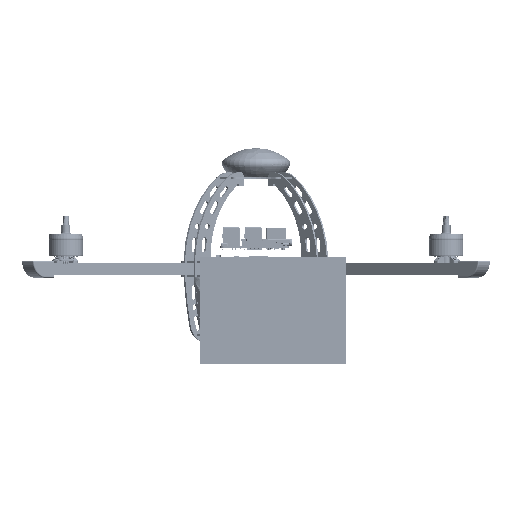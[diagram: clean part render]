
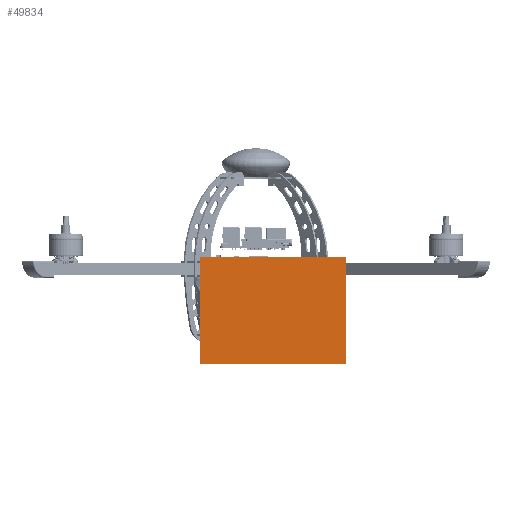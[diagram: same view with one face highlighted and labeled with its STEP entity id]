
A CAD part, left-side view. The second image highlights one B-rep face of the part: STEP entity #49834.
In plain terms, the highlighted planar face has unit normal (-1, 0, 0) as drawn and (0, 1, 0) by its records, which use the part's own axes.
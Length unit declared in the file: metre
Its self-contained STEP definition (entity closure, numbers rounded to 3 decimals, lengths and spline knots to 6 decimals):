
#49834=ADVANCED_FACE('159:2955',(#101433),#101434,.F.);
#101433=FACE_OUTER_BOUND('',#160837,.T.);
#101434=PLANE('',#160838);
#160837=EDGE_LOOP('',(#306017,#306018,#306019,#306020));
#160838=AXIS2_PLACEMENT_3D('',#306021,#306022,#306023);
#306017=ORIENTED_EDGE('',*,*,#370426,.T.);
#306018=ORIENTED_EDGE('',*,*,#370416,.F.);
#306019=ORIENTED_EDGE('',*,*,#370420,.F.);
#306020=ORIENTED_EDGE('',*,*,#370423,.T.);
#306021=CARTESIAN_POINT('',(0.05792,0.118708,0.043676));
#306022=DIRECTION('',(0.0,-1.0,0.0));
#306023=DIRECTION('',(0.0,0.0,-1.0));
#370416=EDGE_CURVE('159:2976',#455087,#455083,#455089,.T.);
#370420=EDGE_CURVE('159:2979',#455093,#455087,#455095,.T.);
#370423=EDGE_CURVE('159:2982',#455093,#455097,#455100,.T.);
#370426=EDGE_CURVE('159:2973',#455097,#455083,#455103,.T.);
#455083=VERTEX_POINT('NONE',#619853);
#455087=VERTEX_POINT('NONE',#619859);
#455089=LINE('',#619862,#619863);
#455093=VERTEX_POINT('NONE',#619868);
#455095=LINE('',#619871,#619872);
#455097=VERTEX_POINT('NONE',#619874);
#455100=LINE('',#619878,#619879);
#455103=LINE('',#619883,#619884);
#619853=CARTESIAN_POINT('',(-0.101679,0.118708,0.043676));
#619859=CARTESIAN_POINT('',(0.017519,0.118708,0.043676));
#619862=CARTESIAN_POINT('',(0.05792,0.118708,0.043676));
#619863=VECTOR('',#694254,1.0);
#619868=CARTESIAN_POINT('',(0.017519,0.118708,-0.043676));
#619871=CARTESIAN_POINT('',(0.017519,0.118708,-0.043676));
#619872=VECTOR('',#694257,1.0);
#619874=CARTESIAN_POINT('',(-0.101679,0.118708,-0.043676));
#619878=CARTESIAN_POINT('',(0.05792,0.118708,-0.043676));
#619879=VECTOR('',#694259,1.0);
#619883=CARTESIAN_POINT('',(-0.101679,0.118708,-0.043676));
#619884=VECTOR('',#694261,1.0);
#694254=DIRECTION('',(-1.0,-0.0,-0.0));
#694257=DIRECTION('',(0.0,0.0,1.0));
#694259=DIRECTION('',(-1.0,-0.0,-0.0));
#694261=DIRECTION('',(0.0,0.0,1.0));
